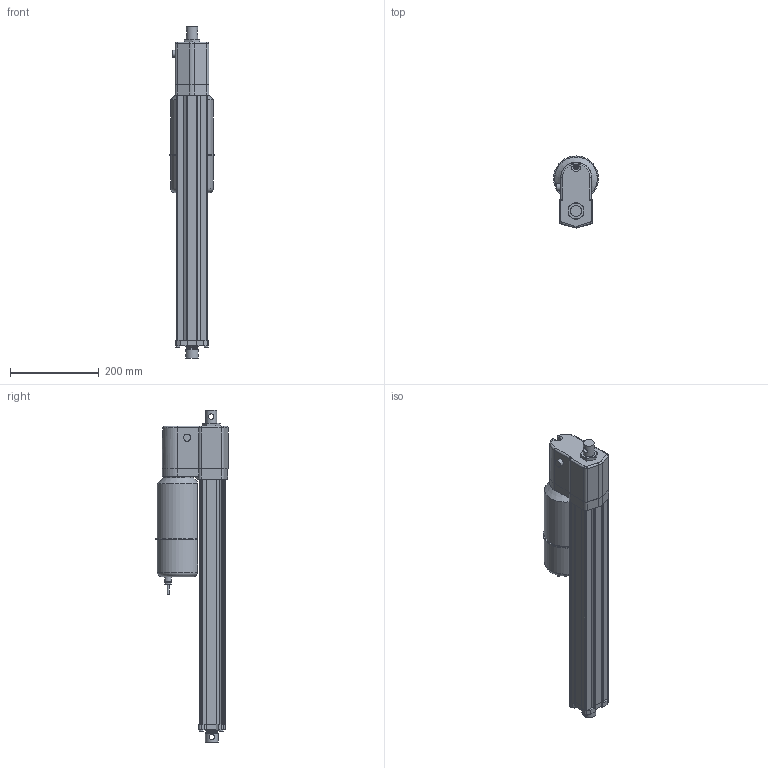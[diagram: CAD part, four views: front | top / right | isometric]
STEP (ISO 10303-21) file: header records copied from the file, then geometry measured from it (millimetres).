
FILE_DESCRIPTION (( 'STEP AP214' ), '1' );
FILE_NAME ('AA22-05A65M-45M0NPO-tollo.step', '2020-04-13T20:07:53', ( '' ), ( '' ), 'SwSTEP 2.0', 'SolidWorks 2010', '' );
FILE_SCHEMA (( 'AUTOMOTIVE_DESIGN' ));
Length unit declared in the file: millimetre
Products named in the file (8): Electrak-LA24-Motor-AA22-05A65M-45M0NPO-tollo_Electrak-LA24-Motor-AA22-05A65M-45M0NPO-tollo; Electrak-LA24-Rear-AA22-05A65M-45M0NPO-tollo_Electrak-LA24-Rear-AA22-05A65M-45M0NPO-tollo; Electrak-LA24-Tube-AA22-05A65M-45M0NPO-tollo_Electrak-LA24-Tube-AA22-05A65M-45M0NPO-tollo; Electrak-LA24-Rod-AA22-05A65M-45M0NPO-tollo_Electrak-LA24-Rod-AA22-05A65M-45M0NPO-tollo; Electrak-LA24-Plate-AA22-05A65M-45M0NPO-tollo_Electrak-LA24-Plate-AA22-05A65M-45M0NPO-tollo; Screw-MFX-H-M5_Screw-MFX-H-M5x24H; Screw-M6S-M5-AA22-05A65M-45M0NPO-tollo_Screw-M6S-M5-AA22-05A65M-45M0NPO-tollo; AA22-05A65M-45M0NPO-tollo
Assembly tree (10 placements, depth 2):
  AA22-05A65M-45M0NPO-tollo
    Screw-M6S-M5-AA22-05A65M-45M0NPO-tollo_Screw-M6S-M5-AA22-05A65M-45M0NPO-tollo  x4
    Electrak-LA24-Plate-AA22-05A65M-45M0NPO-tollo_Electrak-LA24-Plate-AA22-05A65M-45M0NPO-tollo
    Electrak-LA24-Motor-AA22-05A65M-45M0NPO-tollo_Electrak-LA24-Motor-AA22-05A65M-45M0NPO-tollo
    Electrak-LA24-Rear-AA22-05A65M-45M0NPO-tollo_Electrak-LA24-Rear-AA22-05A65M-45M0NPO-tollo
    Screw-MFX-H-M5_Screw-MFX-H-M5x24H
    Electrak-LA24-Tube-AA22-05A65M-45M0NPO-tollo_Electrak-LA24-Tube-AA22-05A65M-45M0NPO-tollo
    Electrak-LA24-Rod-AA22-05A65M-45M0NPO-tollo_Electrak-LA24-Rod-AA22-05A65M-45M0NPO-tollo
Bounding box: 100.99 x 162.5 x 747.8 mm (x, y, z)
Volume: 3604515 mm3; surface area: 537031.9 mm2
Topology: 10 solids, 10 shells, 355 faces, 890 edges, 575 vertices
Faces by surface type: plane 175, cylinder 129, cone 31, torus 15, bspline 3, sphere 2
Full cylindrical faces by diameter (mm): 4 x1, 4.126 x5, 4.8 x6, 5 x5, 5.6 x4, 7.878 x4, 9.3 x1, 10 x1, 12.2 x2, 15 x2, 16 x1, 25.4 x1, 28.6 x4, 47.625 x1, 68 x1
Entity records: 9673 total; most frequent: CARTESIAN_POINT 2403, DIRECTION 1454, ORIENTED_EDGE 1342, EDGE_CURVE 671, AXIS2_PLACEMENT_3D 531, VERTEX_POINT 462, VECTOR 392, LINE 392
